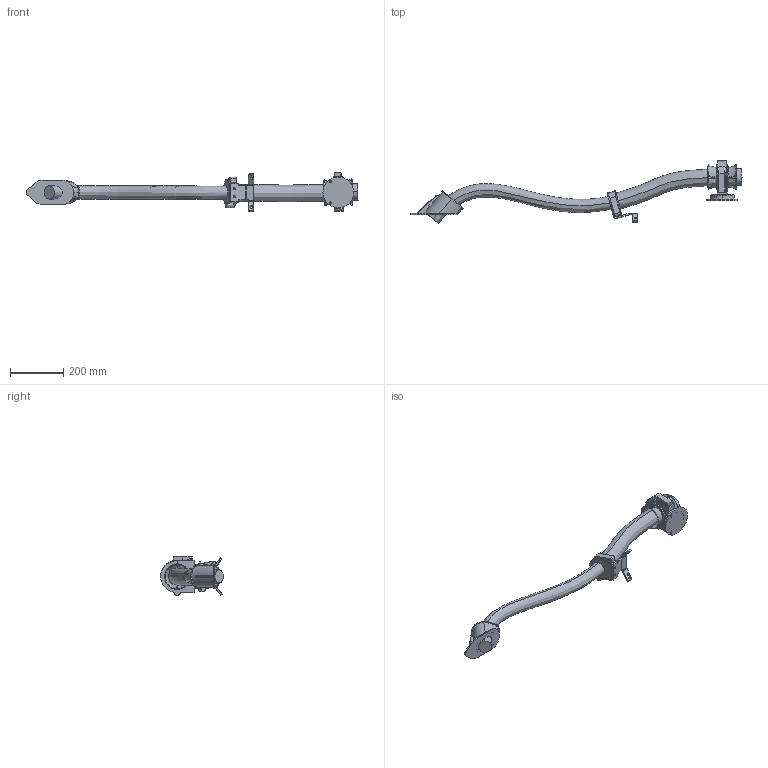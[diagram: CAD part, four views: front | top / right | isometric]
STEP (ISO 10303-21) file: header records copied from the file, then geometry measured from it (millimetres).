
FILE_DESCRIPTION (( 'STEP AP214' ), '1' );
FILE_NAME ('IRB5710-MH3_90kg-270_OmniCore_rev00_LINK04_CABLE.step', '2025-07-08T11:36:02', ( '' ), ( '' ), 'SwSTEP 2.0', 'SolidWorks 2024', '' );
FILE_SCHEMA (( 'AUTOMOTIVE_DESIGN' ));
Length unit declared in the file: millimetre
Products named in the file (1): IRB5710-MH3_90kg-270_OmniCore_rev00_LINK04_CABLE
Bounding box: 1243.15 x 234.79 x 144.31 mm (x, y, z)
Volume: 3815069.7 mm3; surface area: 449780 mm2
Topology: 1 solids, 7 shells, 781 faces, 1962 edges, 1185 vertices
Faces by surface type: cylinder 241, plane 233, torus 124, bspline 68, cone 59, sphere 56
Entity records: 36785 total; most frequent: CARTESIAN_POINT 9823, DIRECTION 3985, ORIENTED_EDGE 3852, EDGE_CURVE 1926, AXIS2_PLACEMENT_3D 1600, VERTEX_POINT 1173, CIRCLE 886, EDGE_LOOP 819
